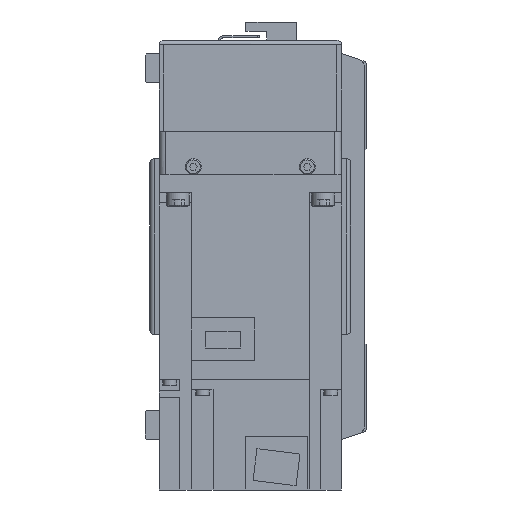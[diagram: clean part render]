
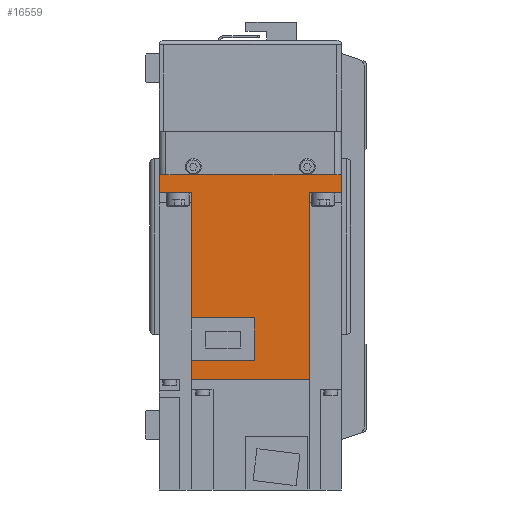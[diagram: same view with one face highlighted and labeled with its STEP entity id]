
A CAD part, left-side view. The second image highlights one B-rep face of the part: STEP entity #16559.
In plain terms, the highlighted planar face has unit normal (-1, 0, 0) as drawn and (1, 0, 0) by its records, which use the part's own axes.
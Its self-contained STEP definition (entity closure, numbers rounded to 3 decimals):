
#1807=ORIENTED_EDGE('',*,*,#6375,.F.);
#1808=ORIENTED_EDGE('',*,*,#6376,.F.);
#1809=ORIENTED_EDGE('',*,*,#6377,.F.);
#1810=ORIENTED_EDGE('',*,*,#6378,.T.);
#1811=ORIENTED_EDGE('',*,*,#6379,.F.);
#1812=ORIENTED_EDGE('',*,*,#6380,.T.);
#1813=ORIENTED_EDGE('',*,*,#6381,.T.);
#1814=ORIENTED_EDGE('',*,*,#6382,.F.);
#1815=ORIENTED_EDGE('',*,*,#6383,.F.);
#1816=ORIENTED_EDGE('',*,*,#6384,.F.);
#1817=ORIENTED_EDGE('',*,*,#6385,.F.);
#1818=ORIENTED_EDGE('',*,*,#6386,.F.);
#6375=EDGE_CURVE('',#8719,#8720,#10357,.T.);
#6376=EDGE_CURVE('',#8721,#8719,#10358,.T.);
#6377=EDGE_CURVE('',#8722,#8721,#10359,.T.);
#6378=EDGE_CURVE('',#8722,#8723,#10360,.T.);
#6379=EDGE_CURVE('',#8724,#8723,#10361,.T.);
#6380=EDGE_CURVE('',#8724,#8725,#10362,.T.);
#6381=EDGE_CURVE('',#8725,#8726,#10363,.T.);
#6382=EDGE_CURVE('',#8727,#8726,#10364,.T.);
#6383=EDGE_CURVE('',#8728,#8727,#10365,.T.);
#6384=EDGE_CURVE('',#8729,#8728,#10366,.T.);
#6385=EDGE_CURVE('',#8730,#8729,#10367,.T.);
#6386=EDGE_CURVE('',#8720,#8730,#10368,.T.);
#8719=VERTEX_POINT('',#24944);
#8720=VERTEX_POINT('',#24945);
#8721=VERTEX_POINT('',#24947);
#8722=VERTEX_POINT('',#24949);
#8723=VERTEX_POINT('',#24951);
#8724=VERTEX_POINT('',#24953);
#8725=VERTEX_POINT('',#24955);
#8726=VERTEX_POINT('',#24957);
#8727=VERTEX_POINT('',#24959);
#8728=VERTEX_POINT('',#24961);
#8729=VERTEX_POINT('',#24963);
#8730=VERTEX_POINT('',#24965);
#10357=LINE('',#24943,#11953);
#10358=LINE('',#24946,#11954);
#10359=LINE('',#24948,#11955);
#10360=LINE('',#24950,#11956);
#10361=LINE('',#24952,#11957);
#10362=LINE('',#24954,#11958);
#10363=LINE('',#24956,#11959);
#10364=LINE('',#24958,#11960);
#10365=LINE('',#24960,#11961);
#10366=LINE('',#24962,#11962);
#10367=LINE('',#24964,#11963);
#10368=LINE('',#24966,#11964);
#11953=VECTOR('',#19881,1000.);
#11954=VECTOR('',#19882,1000.);
#11955=VECTOR('',#19883,1000.);
#11956=VECTOR('',#19884,1000.);
#11957=VECTOR('',#19885,1000.);
#11958=VECTOR('',#19886,1000.);
#11959=VECTOR('',#19887,1000.);
#11960=VECTOR('',#19888,1000.);
#11961=VECTOR('',#19889,1000.);
#11962=VECTOR('',#19890,1000.);
#11963=VECTOR('',#19891,1000.);
#11964=VECTOR('',#19892,1000.);
#13541=EDGE_LOOP('',(#1807,#1808,#1809,#1810,#1811,#1812,#1813,#1814,#1815,
#1816,#1817,#1818));
#14763=FACE_BOUND('',#13541,.T.);
#15878=PLANE('',#17709);
#16559=ADVANCED_FACE('',(#14763),#15878,.F.);
#17709=AXIS2_PLACEMENT_3D('',#24942,#19879,#19880);
#19879=DIRECTION('',(-1.,0.,0.));
#19880=DIRECTION('',(0.,0.,1.));
#19881=DIRECTION('',(0.,0.,1.));
#19882=DIRECTION('',(0.,-1.,0.));
#19883=DIRECTION('',(0.,0.,-1.));
#19884=DIRECTION('',(0.,-1.,0.));
#19885=DIRECTION('',(0.,0.,-1.));
#19886=DIRECTION('',(0.,-1.,0.));
#19887=DIRECTION('',(0.,0.,-1.));
#19888=DIRECTION('',(0.,-1.,0.));
#19889=DIRECTION('',(0.,0.,-1.));
#19890=DIRECTION('',(0.,-1.,0.));
#19891=DIRECTION('',(0.,0.,-1.));
#19892=DIRECTION('',(0.,-1.,0.));
#24942=CARTESIAN_POINT('',(40.,89.8,40.));
#24943=CARTESIAN_POINT('',(40.,81.4,-26.));
#24944=CARTESIAN_POINT('',(40.,81.4,-25.95));
#24945=CARTESIAN_POINT('',(40.,81.4,1.8));
#24946=CARTESIAN_POINT('',(40.,158.,-25.95));
#24947=CARTESIAN_POINT('',(40.,89.8,-25.95));
#24948=CARTESIAN_POINT('',(40.,89.8,40.));
#24949=CARTESIAN_POINT('',(40.,89.8,25.95));
#24950=CARTESIAN_POINT('',(40.,158.,25.95));
#24951=CARTESIAN_POINT('',(40.,8.,25.95));
#24952=CARTESIAN_POINT('',(40.,8.,40.));
#24953=CARTESIAN_POINT('',(40.,8.,40.));
#24954=CARTESIAN_POINT('',(40.,89.8,40.));
#24955=CARTESIAN_POINT('',(40.,0.,40.));
#24956=CARTESIAN_POINT('',(40.,0.,40.));
#24957=CARTESIAN_POINT('',(40.,0.,-40.));
#24958=CARTESIAN_POINT('',(40.,89.8,-40.));
#24959=CARTESIAN_POINT('',(40.,8.,-40.));
#24960=CARTESIAN_POINT('',(40.,8.,40.));
#24961=CARTESIAN_POINT('',(40.,8.,-25.95));
#24962=CARTESIAN_POINT('',(40.,158.,-25.95));
#24963=CARTESIAN_POINT('',(40.,62.8,-25.95));
#24964=CARTESIAN_POINT('',(40.,62.8,1.8));
#24965=CARTESIAN_POINT('',(40.,62.8,1.8));
#24966=CARTESIAN_POINT('',(40.,81.4,1.8));
